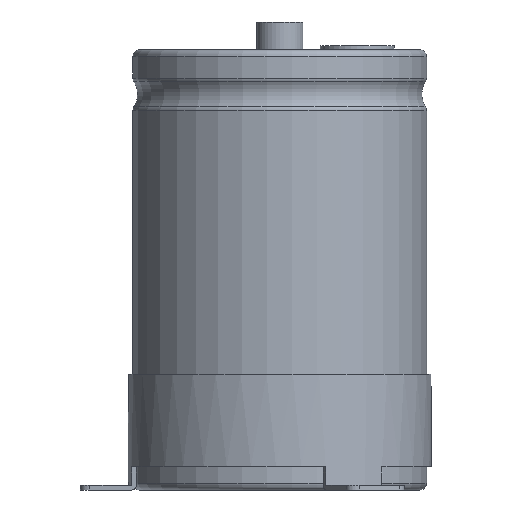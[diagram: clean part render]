
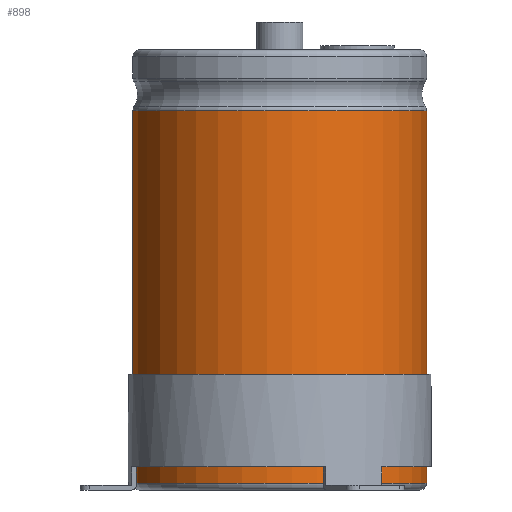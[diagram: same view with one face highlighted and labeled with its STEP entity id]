
A CAD part, front view. The second image highlights one B-rep face of the part: STEP entity #898.
In plain terms, the highlighted cylindrical face has radius 31.75 mm (diameter 63.5 mm), a partial arc.
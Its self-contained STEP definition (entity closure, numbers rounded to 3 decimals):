
#898=ADVANCED_FACE('',(#1199),#1037,.T.);
#1037=CYLINDRICAL_SURFACE('',#4842,31.75);
#1199=FACE_OUTER_BOUND('',#1450,.T.);
#1450=EDGE_LOOP('',(#2666,#2667,#2668,#2669));
#1741=CIRCLE('',#4839,31.75);
#1742=CIRCLE('',#4841,31.75);
#2666=ORIENTED_EDGE('',*,*,#3888,.T.);
#2667=ORIENTED_EDGE('',*,*,#3889,.T.);
#2668=ORIENTED_EDGE('',*,*,#3890,.F.);
#2669=ORIENTED_EDGE('',*,*,#3891,.F.);
#3337=VERTEX_POINT('',#7875);
#3339=VERTEX_POINT('',#7879);
#3340=VERTEX_POINT('',#7883);
#3341=VERTEX_POINT('',#7885);
#3888=EDGE_CURVE('',#3337,#3339,#1741,.T.);
#3889=EDGE_CURVE('',#3339,#3340,#4231,.T.);
#3890=EDGE_CURVE('',#3341,#3340,#1742,.T.);
#3891=EDGE_CURVE('',#3337,#3341,#4232,.T.);
#4231=LINE('',#7882,#4445);
#4232=LINE('',#7886,#4446);
#4445=VECTOR('',#5840,1.);
#4446=VECTOR('',#5843,1.);
#4839=AXIS2_PLACEMENT_3D('',#7880,#5836,#5837);
#4841=AXIS2_PLACEMENT_3D('',#7884,#5841,#5842);
#4842=AXIS2_PLACEMENT_3D('',#7887,#5844,#5845);
#5836=DIRECTION('',(0.,0.,-1.));
#5837=DIRECTION('',(0.,1.,0.));
#5840=DIRECTION('',(0.,0.,-1.));
#5841=DIRECTION('',(0.,0.,-1.));
#5842=DIRECTION('',(0.,1.,0.));
#5843=DIRECTION('',(0.,0.,-1.));
#5844=DIRECTION('',(0.,0.,-1.));
#5845=DIRECTION('',(0.,1.,0.));
#7875=CARTESIAN_POINT('',(4.007,31.496,81.9));
#7879=CARTESIAN_POINT('',(-4.007,31.496,81.9));
#7880=CARTESIAN_POINT('',(0.,0.,81.9));
#7882=CARTESIAN_POINT('',(-4.007,31.496,81.9));
#7883=CARTESIAN_POINT('',(-4.007,31.496,1.5));
#7884=CARTESIAN_POINT('',(0.,0.,1.5));
#7885=CARTESIAN_POINT('',(4.007,31.496,1.5));
#7886=CARTESIAN_POINT('',(4.007,31.496,81.9));
#7887=CARTESIAN_POINT('',(0.,0.,0.));
